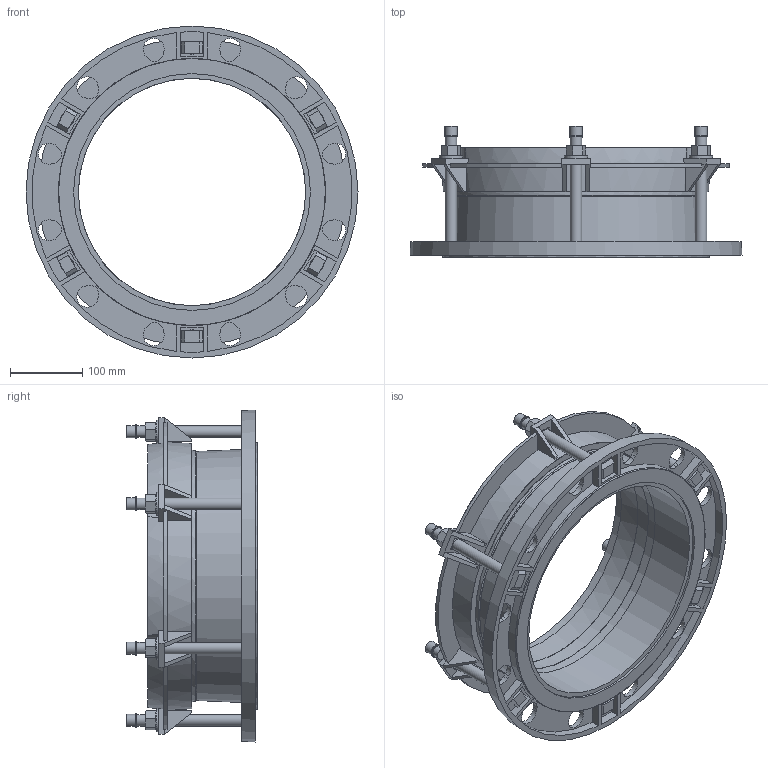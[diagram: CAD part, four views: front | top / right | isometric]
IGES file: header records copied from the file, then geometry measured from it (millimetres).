
Start section: SolidWorks IGES file using analytic representation for surfaces
Global section: file name: \\avksan2\techshare\PBM outline export from Enovia\O_623_10_DN300-315mm_X1XXXXX_REV01.igs; native system: SolidWorks 2019; preprocessor: SolidWorks 2019; author: pbm; date: 200417.112255; units: millimetre
Bounding box: 460 x 181.5 x 460 mm (x, y, z)
Surface area: 713626.1 mm2 (no closed solid volume)
Topology: 0 solids, 1 shells, 601 faces, 3007 edges, 2946 vertices
Faces by surface type: bspline 370, revolution 231
